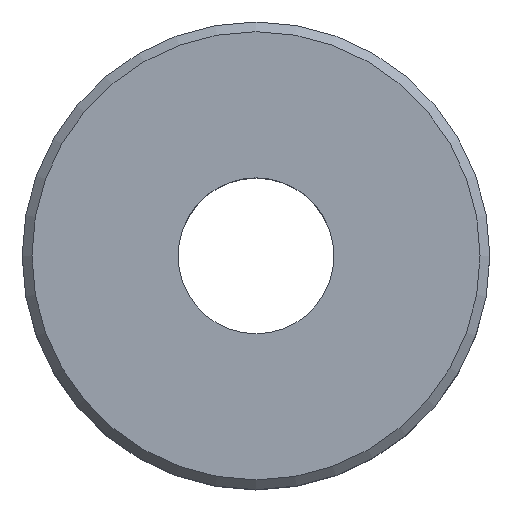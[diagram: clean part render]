
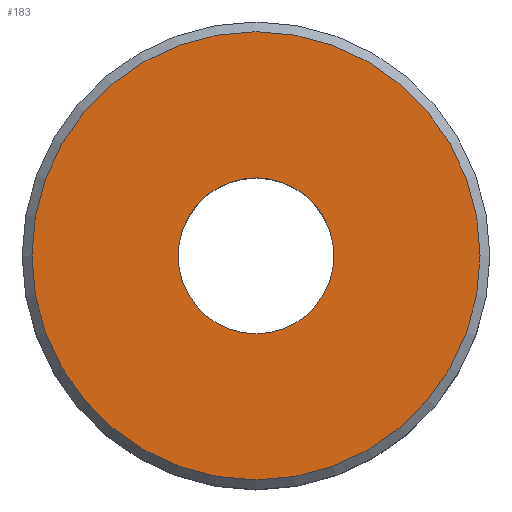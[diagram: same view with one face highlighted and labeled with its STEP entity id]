
A CAD part, top view. The second image highlights one B-rep face of the part: STEP entity #183.
In plain terms, the highlighted planar face has unit normal (0, 0, 1).
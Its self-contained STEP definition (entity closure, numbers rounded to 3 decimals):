
#141=CARTESIAN_POINT('',(11.5,0.,5.5));
#142=VERTEX_POINT('',#141);
#143=CARTESIAN_POINT('',(0.0,0.0,5.5));
#144=DIRECTION('',(0.0,0.0,1.0));
#145=DIRECTION('',(-1.0,0.0,0.0));
#146=AXIS2_PLACEMENT_3D('',#143,#144,#145);
#147=CIRCLE('',#146,11.5);
#148=EDGE_CURVE('',#142,#142,#147,.F.);
#164=CARTESIAN_POINT('',(6.,0.0,5.5));
#165=DIRECTION('',(0.0,0.0,1.0));
#166=DIRECTION('',(1.0,0.0,0.0));
#167=AXIS2_PLACEMENT_3D('',#164,#165,#166);
#168=PLANE('',#167);
#169=ORIENTED_EDGE('',*,*,#148,.F.);
#170=EDGE_LOOP('',(#169));
#171=FACE_OUTER_BOUND('',#170,.T.);
#172=CARTESIAN_POINT('',(4.0,0.0,5.5));
#173=VERTEX_POINT('',#172);
#174=CARTESIAN_POINT('',(0.0,0.0,5.5));
#175=DIRECTION('',(0.0,0.0,1.0));
#176=DIRECTION('',(1.0,0.0,0.0));
#177=AXIS2_PLACEMENT_3D('',#174,#175,#176);
#178=CIRCLE('',#177,4.0);
#179=EDGE_CURVE('',#173,#173,#178,.F.);
#180=ORIENTED_EDGE('',*,*,#179,.T.);
#181=EDGE_LOOP('',(#180));
#182=FACE_BOUND('',#181,.T.);
#183=ADVANCED_FACE('',(#171,#182),#168,.T.);
